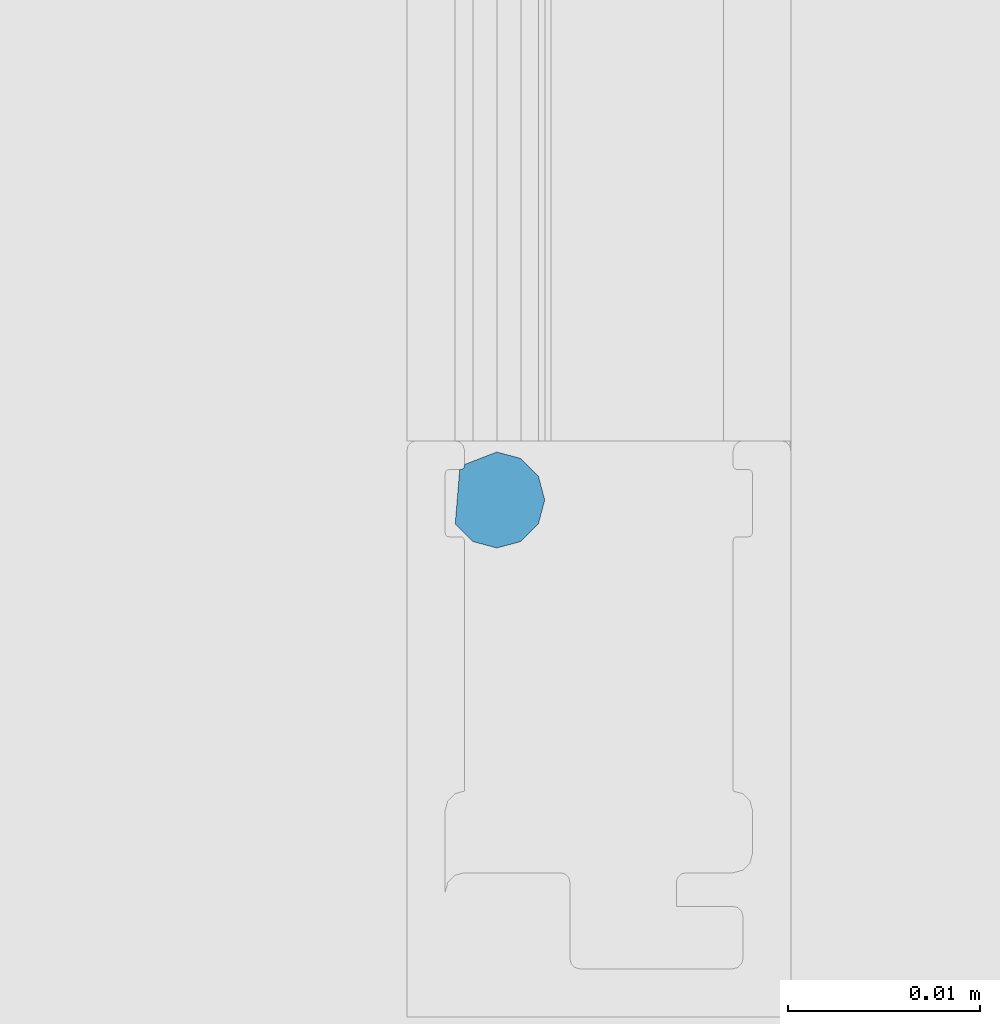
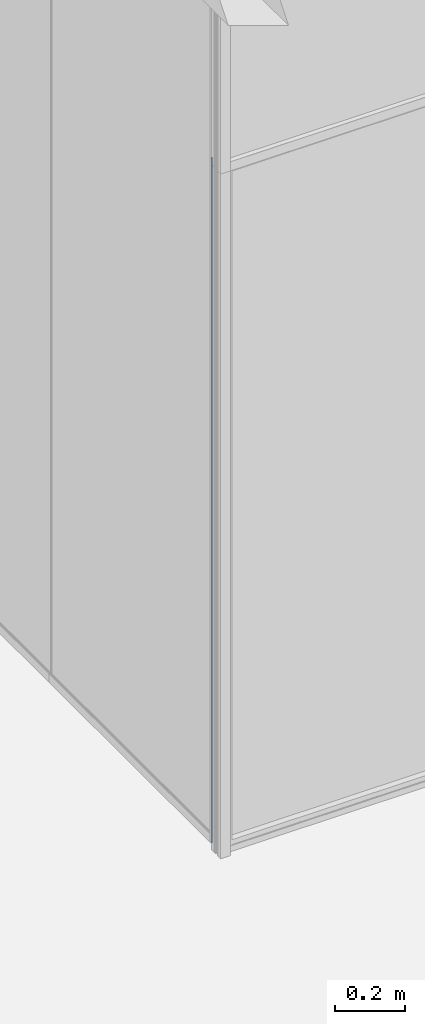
# One storey, part 55 of 387: 1 building element part, 2 elements without a shape of their own.
"""IFC2X3 building model written with IfcOpenShell, lengths in millimetres."""

from ifc_helpers import new_model, entity, si_unit, converted_unit, derived_unit, money_unit, direction, frame, origin_with_axes, place, context, subcontext, project, spatial, faceted_brep, source, transform, mapped, material, type_object, element, aggregate, save


model = new_model("IFC2X3")

# Units and contexts
model_context = context("Model", 3, precision=0.01, world=origin_with_axes(), true_north=direction((0.0, 1.0)))
body_context = subcontext(model_context, "Body", "Model", "MODEL_VIEW")
ifc_project = project(units=[si_unit("LENGTHUNIT", "METRE", prefix="MILLI"), si_unit("AREAUNIT", "SQUARE_METRE"), si_unit("VOLUMEUNIT", "CUBIC_METRE"), converted_unit("PLANEANGLEUNIT", "DEGREE", entity("IfcPlaneAngleMeasure", 0.0174532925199), si_unit("PLANEANGLEUNIT", "RADIAN"), dimensions=[0, 0, 0, 0, 0, 0, 0]), si_unit("SOLIDANGLEUNIT", "STERADIAN"), money_unit("EUR"), converted_unit("TIMEUNIT", "Year", entity("IfcTimeMeasure", 31556926.0), si_unit("TIMEUNIT", "SECOND"), dimensions=[0, 0, 1, 0, 0, 0, 0]), si_unit("MASSUNIT", "GRAM", prefix="KILO"), si_unit("THERMODYNAMICTEMPERATUREUNIT", "DEGREE_CELSIUS"), si_unit("LUMINOUSINTENSITYUNIT", "LUMEN"), si_unit("ENERGYUNIT", "JOULE", prefix="MEGA"), derived_unit("THERMALCONDUCTANCEUNIT", [(si_unit("POWERUNIT", "WATT"), 1), (si_unit("LENGTHUNIT", "METRE"), -1), (si_unit("THERMODYNAMICTEMPERATUREUNIT", "KELVIN"), -1)]), derived_unit("SPECIFICHEATCAPACITYUNIT", [(si_unit("ENERGYUNIT", "JOULE"), 1), (si_unit("MASSUNIT", "GRAM", prefix="KILO"), -1), (si_unit("THERMODYNAMICTEMPERATUREUNIT", "KELVIN"), -1)]), derived_unit("MASSDENSITYUNIT", [(si_unit("MASSUNIT", "GRAM", prefix="KILO"), 1), (si_unit("VOLUMEUNIT", "CUBIC_METRE"), -1)])], contexts=[model_context])

# Site, building, storey
site_placement = place(None, origin_with_axes())
site = spatial("IfcSite", under=ifc_project, at=site_placement, Name="Puškini 31, Narva", CompositionType="ELEMENT")
building_placement = place(site_placement, origin_with_axes())
building = spatial("IfcBuilding", under=site, at=building_placement, Name="Narva Riigigümnaasium", CompositionType="ELEMENT")
storey_placement = place(building_placement, frame((0.0, 0.0, 2640.0), z_axis=(0.0, 0.0, 1.0), x_axis=(1.0, 0.0, 0.0)))
storey = spatial("IfcBuildingStorey", under=building, at=storey_placement, Name="2.korrus +2.64", CompositionType="ELEMENT", Elevation=2640.0)

# Curtain wall, member, building element part
curtain_wall_type = type_object("IfcCurtainWallType", Name="Curtain Wall Type", PredefinedType="NOTDEFINED")
curtain_wall_placement = place(storey_placement, frame((28389.9972784, 173774.499972, -5.2224053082e-05), z_axis=(0.0, 0.0, 1.0), x_axis=(1.0, 0.0, 0.0)))
curtain_wall = element("IfcCurtainWall", 1, at=curtain_wall_placement, inside=storey, type_object=curtain_wall_type, Name="G-SKLF-15.2")
member_type = type_object("IfcMemberType", Name="Boundary Frame 30 x 10", PredefinedType="MULLION")
member_placement = place(curtain_wall_placement, frame((-7.84794451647e-09, -294.500035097, 2400.00005222), z_axis=(0.0, 0.0, -1.0), x_axis=(0.0, 1.0, 0.0)))
member = element("IfcMember", 2, at=member_placement, type_object=member_type, Name="G-SKLF-93-raam", ObjectType="MULLION")
aggregate(curtain_wall, [member])
ifc_material = material(Name="Membraan - Veekindel")
shared_shape = source(origin_with_axes(), body_context, "Body", "Brep", [
    faceted_brep([(-28.5, 7.24760028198, -4.10349964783e-07), (-28.5, 7.24760028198, 2400.00005222), (-25.6641727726, 7.48000965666, 2400.00005222), (-25.6641727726, 7.48000965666, -4.10349964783e-07), (-28.5, 7.19999999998, -4.10349964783e-07), (-28.5, 7.19999999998, 2400.00005222), (-28.5267949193, 7.09999999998, 2400.00005222), (-28.6, 7.02679491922, 2400.00005222), (-28.7, 6.99999999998, 2400.00005222), (-28.7609519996, 6.99999999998, 2400.00005222), (-29.4141727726, 5.31494614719, 2400.00005222), (-29.079236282, 4.06494614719, 2400.00005222), (-28.1641727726, 3.14988263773, 2400.00005222), (-26.9141727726, 2.81494614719, 2400.00005222), (-25.6641727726, 3.14988263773, 2400.00005222), (-24.7491092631, 4.06494614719, 2400.00005222), (-24.4141727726, 5.31494614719, 2400.00005222), (-24.7491092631, 6.56494614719, 2400.00005222), (-24.7491092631, 6.56494614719, -4.10349964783e-07), (-24.4141727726, 5.31494614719, -4.10349964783e-07), (-24.7491092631, 4.06494614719, -4.10349964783e-07), (-25.6641727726, 3.14988263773, -4.10349964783e-07), (-26.9141727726, 2.81494614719, -4.10349964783e-07), (-28.1641727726, 3.14988263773, -4.10349964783e-07), (-29.079236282, 4.06494614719, -4.10349964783e-07), (-29.4141727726, 5.31494614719, -4.10349964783e-07), (-28.7609519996, 6.99999999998, -4.10349964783e-07), (-28.7, 6.99999999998, -4.10349964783e-07), (-28.6, 7.02679491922, -4.10349964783e-07), (-28.5267949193, 7.09999999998, -4.10349964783e-07)], [[[0, 1, 2, 3]], [[4, 5, 1, 0]], [[1, 5, 6, 7, 8, 9, 10, 11, 12, 13, 14, 15, 16, 17, 2]], [[3, 2, 17, 18]], [[0, 3, 18, 19, 20, 21, 22, 23, 24, 25, 26, 27, 28, 29, 4]], [[29, 6, 5, 4]], [[28, 7, 6, 29]], [[27, 8, 7, 28]], [[26, 9, 8, 27]], [[25, 10, 9, 26]], [[24, 11, 10, 25]], [[23, 12, 11, 24]], [[22, 13, 12, 23]], [[21, 14, 13, 22]], [[20, 15, 14, 21]], [[19, 16, 15, 20]], [[18, 17, 16, 19]]]),
])
building_element_part_placement = place(member_placement, origin_with_axes())
building_element_part = element("IfcBuildingElementPart", 3, at=building_element_part_placement, material=ifc_material, Name="Membraan - Veekindel", context=body_context, shape_type="MappedRepresentation", body=[
    mapped(shared_shape, transform((0.0, 0.0, 0.0), x_axis=(-1.0, 0.0, 0.0), y_axis=(0.0, -1.0, 0.0), z_axis=(0.0, 0.0, 1.0))),
])
aggregate(member, [building_element_part])

save(model, "model.ifc")
